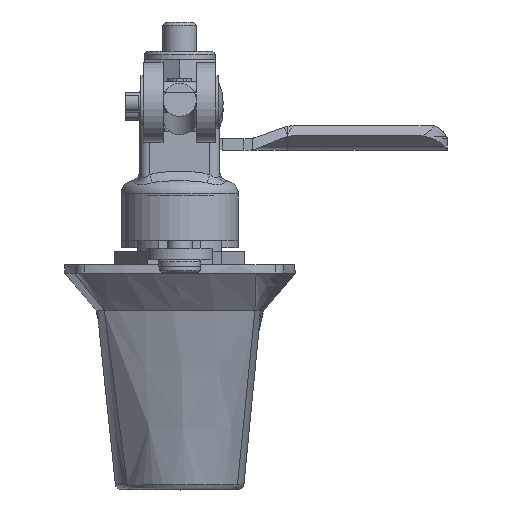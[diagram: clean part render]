
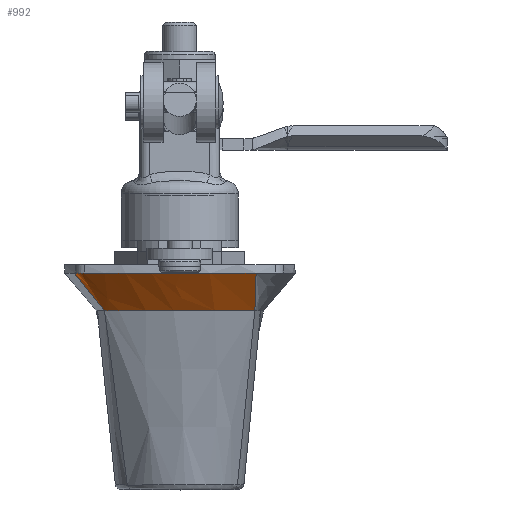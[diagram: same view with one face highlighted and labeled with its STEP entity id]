
A CAD part, top view. The second image highlights one B-rep face of the part: STEP entity #992.
In plain terms, the highlighted free-form (B-spline) face has degree [3, 3] with [10, 4] control points.
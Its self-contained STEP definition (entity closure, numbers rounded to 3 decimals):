
#992 = ADVANCED_FACE( '', ( #1746 ), #1747, .T. );
#1746 = FACE_OUTER_BOUND( '', #6847, .T. );
#1747 = B_SPLINE_SURFACE_WITH_KNOTS( '', 3, 3, ( ( #6848, #6849, #6850, #6851 ), ( #6852, #6853, #6854, #6855 ), ( #6856, #6857, #6858, #6859 ), ( #6860, #6861, #6862, #6863 ), ( #6864, #6865, #6866, #6867 ), ( #6868, #6869, #6870, #6871 ), ( #6872, #6873, #6874, #6875 ), ( #6876, #6877, #6878, #6879 ), ( #6880, #6881, #6882, #6883 ), ( #6884, #6885, #6886, #6887 ) ), .UNSPECIFIED., .F., .F., .F., ( 4, 2, 2, 2, 4 ), ( 4, 4 ), ( 0., 0.45, 0.901, 0.967, 1. ), ( 0., 1. ), .UNSPECIFIED. );
#6847 = EDGE_LOOP( '', ( #9760, #9761, #9762, #9763, #9764, #9765, #9766, #9767 ) );
#6848 = CARTESIAN_POINT( '', ( 31.702, 18.251, -2.032 ) );
#6849 = CARTESIAN_POINT( '', ( 29.074, 18.155, -5.038 ) );
#6850 = CARTESIAN_POINT( '', ( 26.447, 18.06, -8.043 ) );
#6851 = CARTESIAN_POINT( '', ( 23.819, 17.965, -11.049 ) );
#6852 = CARTESIAN_POINT( '', ( 33.64, 11.556, -2.032 ) );
#6853 = CARTESIAN_POINT( '', ( 30.932, 11.955, -5.038 ) );
#6854 = CARTESIAN_POINT( '', ( 28.224, 12.353, -8.043 ) );
#6855 = CARTESIAN_POINT( '', ( 25.517, 12.751, -11.049 ) );
#6856 = CARTESIAN_POINT( '', ( 34.502, 4.553, -2.032 ) );
#6857 = CARTESIAN_POINT( '', ( 31.824, 5.467, -5.038 ) );
#6858 = CARTESIAN_POINT( '', ( 29.147, 6.381, -8.043 ) );
#6859 = CARTESIAN_POINT( '', ( 26.47, 7.295, -11.049 ) );
#6860 = CARTESIAN_POINT( '', ( 33.99, -9.374, -2.032 ) );
#6861 = CARTESIAN_POINT( '', ( 31.598, -7.471, -5.038 ) );
#6862 = CARTESIAN_POINT( '', ( 29.205, -5.569, -8.043 ) );
#6863 = CARTESIAN_POINT( '', ( 26.813, -3.666, -11.049 ) );
#6864 = CARTESIAN_POINT( '', ( 32.616, -16.295, -2.032 ) );
#6865 = CARTESIAN_POINT( '', ( 30.478, -13.921, -5.038 ) );
#6866 = CARTESIAN_POINT( '', ( 28.34, -11.546, -8.043 ) );
#6867 = CARTESIAN_POINT( '', ( 26.203, -9.171, -11.049 ) );
#6868 = CARTESIAN_POINT( '', ( 29.837, -23.79, -2.032 ) );
#6869 = CARTESIAN_POINT( '', ( 28.102, -20.947, -5.038 ) );
#6870 = CARTESIAN_POINT( '', ( 26.368, -18.104, -8.043 ) );
#6871 = CARTESIAN_POINT( '', ( 24.633, -15.261, -11.049 ) );
#6872 = CARTESIAN_POINT( '', ( 28.987, -24.552, -2.032 ) );
#6873 = CARTESIAN_POINT( '', ( 27.463, -21.714, -5.038 ) );
#6874 = CARTESIAN_POINT( '', ( 25.939, -18.876, -8.043 ) );
#6875 = CARTESIAN_POINT( '', ( 24.416, -16.038, -11.049 ) );
#6876 = CARTESIAN_POINT( '', ( 27.496, -24.929, -2.032 ) );
#6877 = CARTESIAN_POINT( '', ( 26.353, -22.351, -5.038 ) );
#6878 = CARTESIAN_POINT( '', ( 25.209, -19.774, -8.043 ) );
#6879 = CARTESIAN_POINT( '', ( 24.065, -17.196, -11.049 ) );
#6880 = CARTESIAN_POINT( '', ( 26.998, -25.05, -2.032 ) );
#6881 = CARTESIAN_POINT( '', ( 25.98, -22.561, -5.038 ) );
#6882 = CARTESIAN_POINT( '', ( 24.962, -20.071, -8.043 ) );
#6883 = CARTESIAN_POINT( '', ( 23.944, -17.581, -11.049 ) );
#6884 = CARTESIAN_POINT( '', ( 26.499, -25.168, -2.032 ) );
#6885 = CARTESIAN_POINT( '', ( 25.605, -22.767, -5.038 ) );
#6886 = CARTESIAN_POINT( '', ( 24.712, -20.366, -8.043 ) );
#6887 = CARTESIAN_POINT( '', ( 23.819, -17.965, -11.049 ) );
#9760 = ORIENTED_EDGE( '', *, *, #11579, .T. );
#9761 = ORIENTED_EDGE( '', *, *, #11526, .T. );
#9762 = ORIENTED_EDGE( '', *, *, #11580, .T. );
#9763 = ORIENTED_EDGE( '', *, *, #11271, .T. );
#9764 = ORIENTED_EDGE( '', *, *, #11101, .F. );
#9765 = ORIENTED_EDGE( '', *, *, #11100, .F. );
#9766 = ORIENTED_EDGE( '', *, *, #11099, .F. );
#9767 = ORIENTED_EDGE( '', *, *, #11256, .F. );
#11099 = EDGE_CURVE( '', #13017, #13019, #13020, .T. );
#11100 = EDGE_CURVE( '', #13019, #13021, #13022, .T. );
#11101 = EDGE_CURVE( '', #13021, #13012, #13023, .T. );
#11256 = EDGE_CURVE( '', #13286, #13017, #13288, .T. );
#11271 = EDGE_CURVE( '', #13267, #13012, #13316, .T. );
#11526 = EDGE_CURVE( '', #13672, #13670, #13673, .T. );
#11579 = EDGE_CURVE( '', #13286, #13672, #13739, .T. );
#11580 = EDGE_CURVE( '', #13670, #13267, #13740, .T. );
#13012 = VERTEX_POINT( '', #14572 );
#13017 = VERTEX_POINT( '', #14678 );
#13019 = VERTEX_POINT( '', #14683 );
#13020 = B_SPLINE_CURVE_WITH_KNOTS( '', 3, ( #14684, #14685, #14686, #14687, #14688, #14689, #14690, #14691, #14692, #14693 ), .UNSPECIFIED., .F., .F., ( 4, 2, 2, 2, 4 ), ( 0., 0.25, 0.5, 0.75, 0.901 ), .UNSPECIFIED. );
#13021 = VERTEX_POINT( '', #14694 );
#13022 = B_SPLINE_CURVE_WITH_KNOTS( '', 3, ( #14695, #14696, #14697, #14698 ), .UNSPECIFIED., .F., .F., ( 4, 4 ), ( 0.901, 0.967 ), .UNSPECIFIED. );
#13023 = B_SPLINE_CURVE_WITH_KNOTS( '', 3, ( #14699, #14700, #14701, #14702 ), .UNSPECIFIED., .F., .F., ( 4, 4 ), ( 0.967, 1. ), .UNSPECIFIED. );
#13267 = VERTEX_POINT( '', #16104 );
#13286 = VERTEX_POINT( '', #16158 );
#13288 = B_SPLINE_CURVE_WITH_KNOTS( '', 3, ( #16163, #16164, #16165, #16166 ), .UNSPECIFIED., .F., .F., ( 4, 4 ), ( 0., 1. ), .UNSPECIFIED. );
#13316 = B_SPLINE_CURVE_WITH_KNOTS( '', 3, ( #16242, #16243, #16244, #16245 ), .UNSPECIFIED., .F., .F., ( 4, 4 ), ( 0., 1. ), .UNSPECIFIED. );
#13670 = VERTEX_POINT( '', #17599 );
#13672 = VERTEX_POINT( '', #17602 );
#13673 = B_SPLINE_CURVE_WITH_KNOTS( '', 3, ( #17603, #17604, #17605, #17606 ), .UNSPECIFIED., .F., .F., ( 4, 4 ), ( 0., 1. ), .UNSPECIFIED. );
#13739 = B_SPLINE_CURVE_WITH_KNOTS( '', 3, ( #17978, #17979, #17980, #17981, #17982, #17983 ), .UNSPECIFIED., .F., .F., ( 4, 2, 4 ), ( 0., 0.5, 1. ), .UNSPECIFIED. );
#13740 = B_SPLINE_CURVE_WITH_KNOTS( '', 3, ( #17984, #17985, #17986, #17987 ), .UNSPECIFIED., .F., .F., ( 4, 4 ), ( 0., 1. ), .UNSPECIFIED. );
#14572 = CARTESIAN_POINT( '', ( 23.819, -17.965, -11.049 ) );
#14678 = CARTESIAN_POINT( '', ( 23.819, 17.965, -11.049 ) );
#14683 = CARTESIAN_POINT( '', ( 24.835, -14.481, -11.049 ) );
#14684 = CARTESIAN_POINT( '', ( 23.819, 17.965, -11.049 ) );
#14685 = CARTESIAN_POINT( '', ( 24.762, 15.07, -11.049 ) );
#14686 = CARTESIAN_POINT( '', ( 25.476, 12.101, -11.049 ) );
#14687 = CARTESIAN_POINT( '', ( 26.43, 6.088, -11.049 ) );
#14688 = CARTESIAN_POINT( '', ( 26.67, 3.044, -11.049 ) );
#14689 = CARTESIAN_POINT( '', ( 26.67, -3.044, -11.049 ) );
#14690 = CARTESIAN_POINT( '', ( 26.43, -6.088, -11.049 ) );
#14691 = CARTESIAN_POINT( '', ( 25.665, -10.906, -11.049 ) );
#14692 = CARTESIAN_POINT( '', ( 25.292, -12.704, -11.049 ) );
#14693 = CARTESIAN_POINT( '', ( 24.834, -14.481, -11.049 ) );
#14694 = CARTESIAN_POINT( '', ( 24.182, -16.81, -11.049 ) );
#14695 = CARTESIAN_POINT( '', ( 24.834, -14.481, -11.049 ) );
#14696 = CARTESIAN_POINT( '', ( 24.633, -15.261, -11.049 ) );
#14697 = CARTESIAN_POINT( '', ( 24.416, -16.038, -11.049 ) );
#14698 = CARTESIAN_POINT( '', ( 24.182, -16.81, -11.049 ) );
#14699 = CARTESIAN_POINT( '', ( 24.182, -16.81, -11.049 ) );
#14700 = CARTESIAN_POINT( '', ( 24.065, -17.196, -11.049 ) );
#14701 = CARTESIAN_POINT( '', ( 23.944, -17.581, -11.049 ) );
#14702 = CARTESIAN_POINT( '', ( 23.819, -17.965, -11.049 ) );
#16104 = CARTESIAN_POINT( '', ( 26.499, -25.168, -2.032 ) );
#16158 = CARTESIAN_POINT( '', ( 31.702, 18.251, -2.032 ) );
#16163 = CARTESIAN_POINT( '', ( 31.702, 18.251, -2.032 ) );
#16164 = CARTESIAN_POINT( '', ( 29.074, 18.155, -5.038 ) );
#16165 = CARTESIAN_POINT( '', ( 26.447, 18.06, -8.043 ) );
#16166 = CARTESIAN_POINT( '', ( 23.819, 17.965, -11.049 ) );
#16242 = CARTESIAN_POINT( '', ( 26.499, -25.168, -2.032 ) );
#16243 = CARTESIAN_POINT( '', ( 25.605, -22.767, -5.038 ) );
#16244 = CARTESIAN_POINT( '', ( 24.712, -20.366, -8.043 ) );
#16245 = CARTESIAN_POINT( '', ( 23.819, -17.965, -11.049 ) );
#17599 = CARTESIAN_POINT( '', ( 27.994, -24.803, -2.032 ) );
#17602 = CARTESIAN_POINT( '', ( 30.193, -22.829, -2.032 ) );
#17603 = CARTESIAN_POINT( '', ( 30.193, -22.829, -2.032 ) );
#17604 = CARTESIAN_POINT( '', ( 29.837, -23.79, -2.032 ) );
#17605 = CARTESIAN_POINT( '', ( 28.987, -24.552, -2.032 ) );
#17606 = CARTESIAN_POINT( '', ( 27.994, -24.803, -2.032 ) );
#17978 = CARTESIAN_POINT( '', ( 31.702, 18.251, -2.032 ) );
#17979 = CARTESIAN_POINT( '', ( 33.64, 11.556, -2.032 ) );
#17980 = CARTESIAN_POINT( '', ( 34.502, 4.553, -2.032 ) );
#17981 = CARTESIAN_POINT( '', ( 33.99, -9.374, -2.032 ) );
#17982 = CARTESIAN_POINT( '', ( 32.616, -16.295, -2.032 ) );
#17983 = CARTESIAN_POINT( '', ( 30.193, -22.829, -2.032 ) );
#17984 = CARTESIAN_POINT( '', ( 27.994, -24.803, -2.032 ) );
#17985 = CARTESIAN_POINT( '', ( 27.496, -24.929, -2.032 ) );
#17986 = CARTESIAN_POINT( '', ( 26.998, -25.05, -2.032 ) );
#17987 = CARTESIAN_POINT( '', ( 26.499, -25.168, -2.032 ) );
